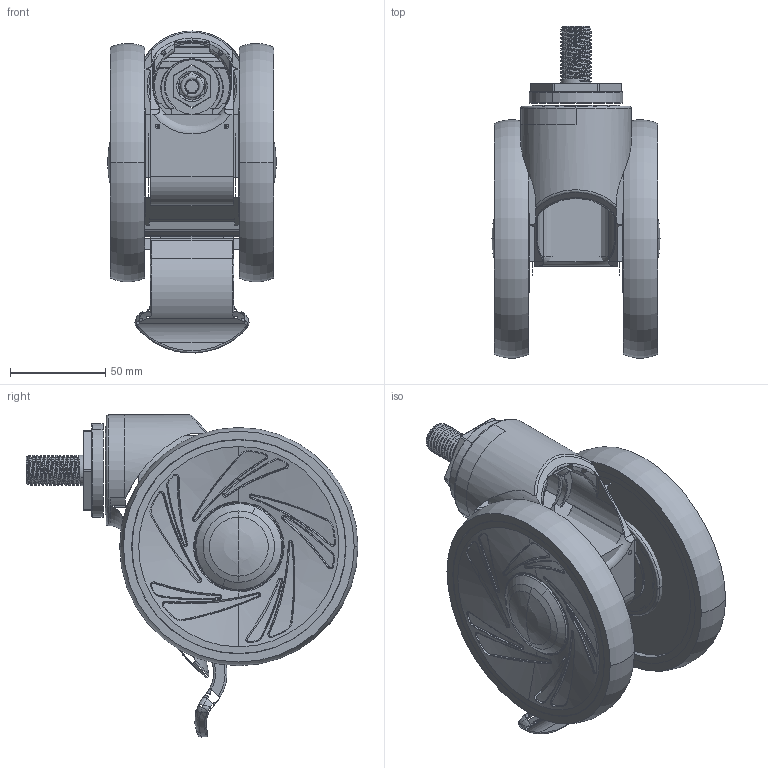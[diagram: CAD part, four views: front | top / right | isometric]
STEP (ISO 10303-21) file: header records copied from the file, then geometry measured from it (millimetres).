
FILE_DESCRIPTION((''),'2;1');
FILE_NAME('PRT0004','2025-08-12T11:19:26',('Administrator'),(''),'CREO PARAMETRIC BY PTC INC, 2022124','CREO PARAMETRIC BY PTC INC, 2022124','');
FILE_SCHEMA(('AUTOMOTIVE_DESIGN { 1 0 10303 214 1 1 1 1 }'));
Length unit declared in the file: millimetre
Products named in the file (1): PRT0004
Bounding box: 88.4 x 173.92 x 168.77 mm (x, y, z)
Surface area: 107494.4 mm2 (no closed solid volume)
Topology: 0 solids, 63 shells, 349 faces, 1970 edges, 1666 vertices
Faces by surface type: bspline 139, cylinder 80, plane 69, torus 42, cone 9, extrusion 6, sphere 4
Entity records: 36889 total; most frequent: CARTESIAN_POINT 21338, ORIENTED_EDGE 2457, DIRECTION 2204, EDGE_CURVE 1966, VERTEX_POINT 1666, AXIS2_PLACEMENT_3D 883, B_SPLINE_CURVE_WITH_KNOTS 874, CIRCLE 669
